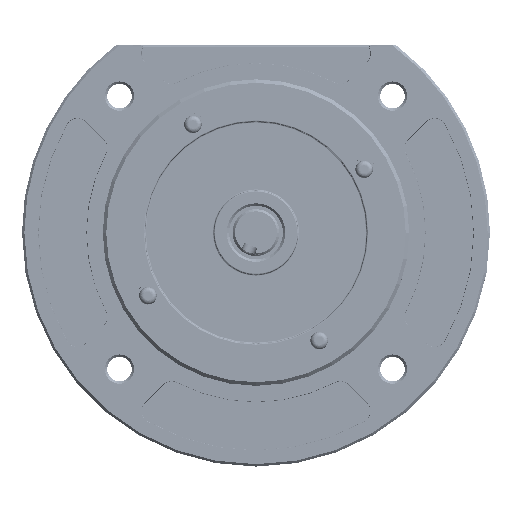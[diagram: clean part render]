
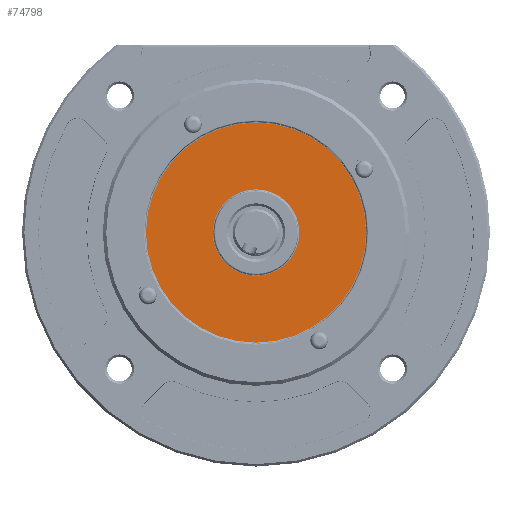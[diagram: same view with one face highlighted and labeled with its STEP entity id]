
A CAD part, top view. The second image highlights one B-rep face of the part: STEP entity #74798.
In plain terms, the highlighted planar face has unit normal (0, 0, 1).
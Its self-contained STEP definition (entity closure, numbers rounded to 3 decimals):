
#8810 = DIRECTION ( 'NONE',  ( 0., 0., 1. ) ) ;
#11930 = VERTEX_POINT ( 'NONE', #59675 ) ;
#19617 = DIRECTION ( 'NONE',  ( 0., 0., 1. ) ) ;
#32099 = CIRCLE ( 'NONE', #107659, 18.5 ) ;
#40671 = DIRECTION ( 'NONE',  ( 1., 0., 0. ) ) ;
#41354 = VERTEX_POINT ( 'NONE', #74813 ) ;
#44380 = DIRECTION ( 'NONE',  ( 1., 0., 0. ) ) ;
#47578 = EDGE_LOOP ( 'NONE', ( #151383, #88511 ) ) ;
#55867 = VERTEX_POINT ( 'NONE', #157634 ) ;
#57613 = DIRECTION ( 'NONE',  ( 1., 0., 0. ) ) ;
#59675 = CARTESIAN_POINT ( 'NONE',  ( -18.5, 0., 7. ) ) ;
#61572 = DIRECTION ( 'NONE',  ( 0., 0., 1. ) ) ;
#62391 = CIRCLE ( 'NONE', #182699, 47. ) ;
#70154 = PLANE ( 'NONE',  #137325 ) ;
#71214 = FACE_BOUND ( 'NONE', #94450, .T. ) ;
#72716 = CARTESIAN_POINT ( 'NONE',  ( -47., 0., 7. ) ) ;
#72947 = DIRECTION ( 'NONE',  ( 0., 0., -1. ) ) ;
#74798 = ADVANCED_FACE ( 'NONE', ( #71214, #101313 ), #70154, .T. ) ;
#74813 = CARTESIAN_POINT ( 'NONE',  ( 47., 0., 7. ) ) ;
#81590 = EDGE_CURVE ( 'NONE', #137219, #41354, #62391, .T. ) ;
#85209 = DIRECTION ( 'NONE',  ( 1., 0., 0. ) ) ;
#88511 = ORIENTED_EDGE ( 'NONE', *, *, #81590, .T. ) ;
#93111 = CIRCLE ( 'NONE', #196285, 47. ) ;
#94450 = EDGE_LOOP ( 'NONE', ( #177267, #161104 ) ) ;
#101313 = FACE_OUTER_BOUND ( 'NONE', #47578, .T. ) ;
#105761 = CARTESIAN_POINT ( 'NONE',  ( 0., 0., 7. ) ) ;
#107659 = AXIS2_PLACEMENT_3D ( 'NONE', #142671, #140561, #57613 ) ;
#116027 = EDGE_CURVE ( 'NONE', #11930, #55867, #168213, .T. ) ;
#126911 = EDGE_CURVE ( 'NONE', #41354, #137219, #93111, .T. ) ;
#137219 = VERTEX_POINT ( 'NONE', #72716 ) ;
#137325 = AXIS2_PLACEMENT_3D ( 'NONE', #167080, #19617, #85209 ) ;
#138675 = CARTESIAN_POINT ( 'NONE',  ( 0., 0., 7. ) ) ;
#140561 = DIRECTION ( 'NONE',  ( 0., 0., -1. ) ) ;
#142671 = CARTESIAN_POINT ( 'NONE',  ( 0., 0., 7. ) ) ;
#151383 = ORIENTED_EDGE ( 'NONE', *, *, #126911, .T. ) ;
#155647 = EDGE_CURVE ( 'NONE', #55867, #11930, #32099, .T. ) ;
#157634 = CARTESIAN_POINT ( 'NONE',  ( 18.5, 0., 7. ) ) ;
#161104 = ORIENTED_EDGE ( 'NONE', *, *, #116027, .T. ) ;
#167080 = CARTESIAN_POINT ( 'NONE',  ( 0., 0., 7. ) ) ;
#168213 = CIRCLE ( 'NONE', #206006, 18.5 ) ;
#177267 = ORIENTED_EDGE ( 'NONE', *, *, #155647, .T. ) ;
#182699 = AXIS2_PLACEMENT_3D ( 'NONE', #105761, #61572, #44380 ) ;
#189680 = CARTESIAN_POINT ( 'NONE',  ( 0., 0., 7. ) ) ;
#196285 = AXIS2_PLACEMENT_3D ( 'NONE', #189680, #8810, #207967 ) ;
#206006 = AXIS2_PLACEMENT_3D ( 'NONE', #138675, #72947, #40671 ) ;
#207967 = DIRECTION ( 'NONE',  ( 1., 0., 0. ) ) ;
